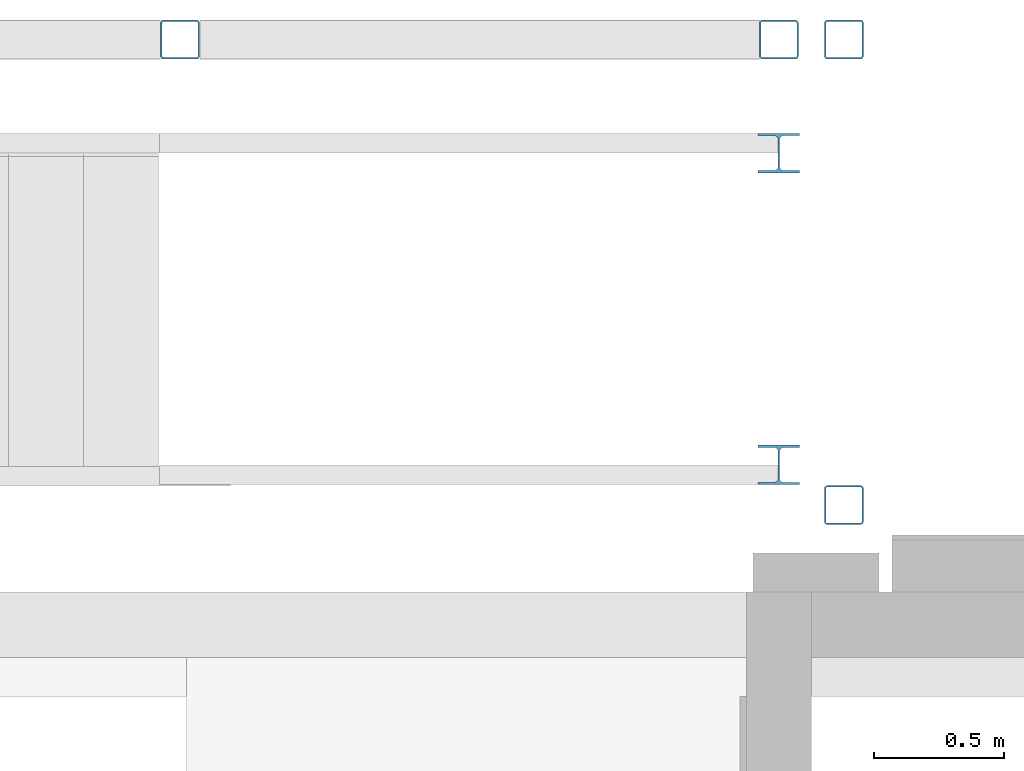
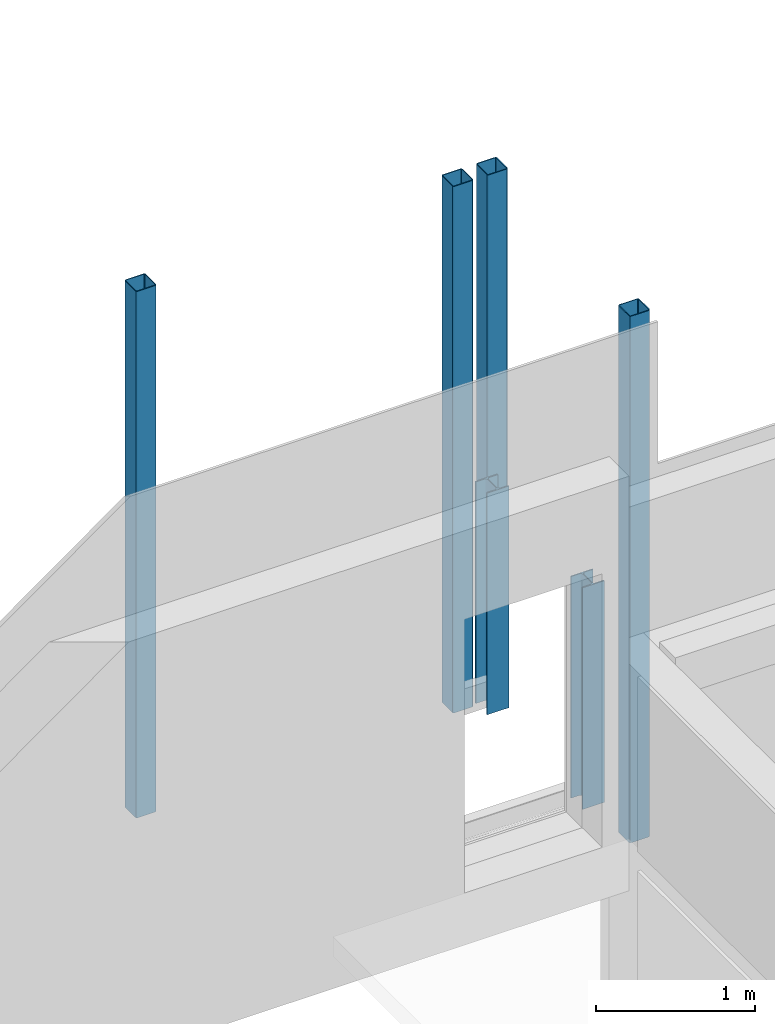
# One storey, part 4 of 29: 6 columns.
"""IFC2X3 building model written with IfcOpenShell, lengths in centimetres."""

from ifc_helpers import new_model, entity, si_unit, converted_unit, derived_unit, direction, frame, frame_2d, origin, place, context, subcontext, project, spatial, polyline, circle_curve, parameter, trimmed, segment, composite_curve, outline, extrude, source, transform, mapped, material, type_object, type_shapes, element, save


model = new_model("IFC2X3")

# Units and contexts
model_context = context("Model", 3, precision=0.001, world=origin(), true_north=direction((6.12303176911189e-17, 1.0)))
body_context = subcontext(model_context, "Body", "Model", "MODEL_VIEW")
ifc_project = project(units=[si_unit("LENGTHUNIT", "METRE", prefix="CENTI"), si_unit("AREAUNIT", "SQUARE_METRE"), si_unit("VOLUMEUNIT", "CUBIC_METRE"), converted_unit("PLANEANGLEUNIT", "DEGREE", entity("IfcRatioMeasure", 0.0174532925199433), si_unit("PLANEANGLEUNIT", "RADIAN"), dimensions=[0, 0, 0, 0, 0, 0, 0]), si_unit("MASSUNIT", "GRAM", prefix="KILO"), derived_unit("MASSDENSITYUNIT", [(si_unit("MASSUNIT", "GRAM", prefix="KILO"), 1), (si_unit("LENGTHUNIT", "METRE"), -3)]), derived_unit("MOMENTOFINERTIAUNIT", [(si_unit("LENGTHUNIT", "METRE"), 4)]), si_unit("TIMEUNIT", "SECOND"), si_unit("FREQUENCYUNIT", "HERTZ"), si_unit("THERMODYNAMICTEMPERATUREUNIT", "DEGREE_CELSIUS"), derived_unit("THERMALTRANSMITTANCEUNIT", [(si_unit("MASSUNIT", "GRAM", prefix="KILO"), 1), (si_unit("THERMODYNAMICTEMPERATUREUNIT", "KELVIN"), -1), (si_unit("TIMEUNIT", "SECOND"), -3)]), derived_unit("VOLUMETRICFLOWRATEUNIT", [(si_unit("LENGTHUNIT", "METRE"), 3), (si_unit("TIMEUNIT", "SECOND"), -1)]), si_unit("ELECTRICCURRENTUNIT", "AMPERE"), si_unit("ELECTRICVOLTAGEUNIT", "VOLT"), si_unit("POWERUNIT", "WATT"), si_unit("FORCEUNIT", "NEWTON", prefix="KILO"), si_unit("ILLUMINANCEUNIT", "LUX"), si_unit("LUMINOUSFLUXUNIT", "LUMEN"), si_unit("LUMINOUSINTENSITYUNIT", "CANDELA"), derived_unit("USERDEFINED", [(si_unit("MASSUNIT", "GRAM", prefix="KILO"), -1), (si_unit("LENGTHUNIT", "METRE"), -2), (si_unit("TIMEUNIT", "SECOND"), 3), (si_unit("LUMINOUSFLUXUNIT", "LUMEN"), 1)]), derived_unit("LINEARVELOCITYUNIT", [(si_unit("LENGTHUNIT", "METRE"), 1), (si_unit("TIMEUNIT", "SECOND"), -1)]), si_unit("PRESSUREUNIT", "PASCAL"), derived_unit("USERDEFINED", [(si_unit("LENGTHUNIT", "METRE"), -2), (si_unit("MASSUNIT", "GRAM", prefix="KILO"), 1), (si_unit("TIMEUNIT", "SECOND"), -2)]), derived_unit("LINEARFORCEUNIT", [(si_unit("MASSUNIT", "GRAM", prefix="KILO"), 1), (si_unit("LENGTHUNIT", "METRE"), 1), (si_unit("TIMEUNIT", "SECOND"), -2), (si_unit("LENGTHUNIT", "METRE"), -1)]), derived_unit("PLANARFORCEUNIT", [(si_unit("MASSUNIT", "GRAM", prefix="KILO"), 1), (si_unit("LENGTHUNIT", "METRE"), 1), (si_unit("TIMEUNIT", "SECOND"), -2), (si_unit("LENGTHUNIT", "METRE"), -2)])], contexts=[model_context])

# Site, building, storey
site_placement = place(None, origin())
site = spatial("IfcSite", under=ifc_project, at=site_placement, Name="Default", CompositionType="ELEMENT")
building_placement = place(site_placement, origin())
building = spatial("IfcBuilding", under=site, at=building_placement, CompositionType="ELEMENT")
storey_placement = place(building_placement, frame((0.0, 0.0, 545.0)))
storey = spatial("IfcBuildingStorey", under=building, at=storey_placement, Name="Poziom 1K +5,45", CompositionType="ELEMENT", Elevation=544.999999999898)

# Columns
ifc_material_1 = material(Name="Metal — stal — Stal")
column_type_1 = type_object("IfcColumnType", Name="STAL RK - Ksztaltowniki zamkniete kwadratowe_Słup:RK150x6", PredefinedType="COLUMN", material=ifc_material_1)
shared_shape_1 = source(origin(), body_context, "Body", "SweptSolid", [
    extrude(outline(composite_curve([segment(polyline([(-6.29999999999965, -7.50000000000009), (6.29999999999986, -7.50000000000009)]), True, "CONTINUOUS"), segment(trimmed(circle_curve(frame_2d((6.29999999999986, -6.29999999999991), x_axis=(1.0, 0.0)), 1.20000000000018), [parameter(270.0)], [parameter(360.0)], True, "PARAMETER"), True, "CONTINUOUS"), segment(polyline([(7.50000000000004, -6.29999999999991), (7.50000000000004, 6.29999999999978)]), True, "CONTINUOUS"), segment(trimmed(circle_curve(frame_2d((6.29999999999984, 6.29999999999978), x_axis=(1.0, 0.0)), 1.2000000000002), [parameter(360.0)], [parameter(89.9999999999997)], True, "PARAMETER"), True, "CONTINUOUS"), segment(polyline([(6.29999999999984, 7.49999999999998), (-6.30000000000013, 7.49999999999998)]), True, "CONTINUOUS"), segment(trimmed(circle_curve(frame_2d((-6.30000000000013, 6.30000000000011), x_axis=(1.0, 0.0)), 1.19999999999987), [parameter(89.9999999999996)], [parameter(180.0)], True, "PARAMETER"), True, "CONTINUOUS"), segment(polyline([(-7.5, 6.30000000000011), (-7.5, -6.29999999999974)]), True, "CONTINUOUS"), segment(trimmed(circle_curve(frame_2d((-6.29999999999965, -6.29999999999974), x_axis=(1.0, 0.0)), 1.20000000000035), [parameter(180.0)], [parameter(269.999999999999)], True, "PARAMETER"), True, "CONTINUOUS")], self_intersect=False), holes=[composite_curve([segment(trimmed(circle_curve(frame_2d((-6.30000000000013, 6.29999999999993), x_axis=(1.0, 0.0)), 0.599999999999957), [parameter(90.0000000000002)], [parameter(180.0)], True, "PARAMETER"), False, "CONTINUOUS"), segment(polyline([(-6.30000000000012, 6.89999999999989), (6.29999999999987, 6.89999999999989)]), True, "CONTINUOUS"), segment(trimmed(circle_curve(frame_2d((6.29999999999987, 6.29999999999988), x_axis=(1.0, 0.0)), 0.600000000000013), [parameter(359.999999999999)], [parameter(89.9999999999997)], True, "PARAMETER"), False, "CONTINUOUS"), segment(polyline([(6.89999999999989, 6.29999999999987), (6.89999999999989, -6.30000000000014)]), True, "CONTINUOUS"), segment(trimmed(circle_curve(frame_2d((6.2999999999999, -6.30000000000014), x_axis=(1.0, 0.0)), 0.599999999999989), [parameter(269.999999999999)], [parameter(360.0)], True, "PARAMETER"), False, "CONTINUOUS"), segment(polyline([(6.29999999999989, -6.90000000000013), (-6.3000000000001, -6.90000000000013)]), True, "CONTINUOUS"), segment(trimmed(circle_curve(frame_2d((-6.3000000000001, -6.30000000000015), x_axis=(1.0, 0.0)), 0.599999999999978), [parameter(180.0)], [parameter(270.0)], True, "PARAMETER"), False, "CONTINUOUS"), segment(polyline([(-6.90000000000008, -6.30000000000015), (-6.90000000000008, 6.29999999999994)]), True, "CONTINUOUS")], self_intersect=False)]), frame((0.0, 0.0, 756.0)), (0.0, 0.0, 1.0), 404.000000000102),
])
type_shapes(column_type_1, [shared_shape_1])
for number, where in (
    (1, (-571.764892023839, 2317.41468189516, -545.0)),
    (2, (-316.764944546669, 2317.41468189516, -545.0)),
    (3, (-341.764944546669, 2317.41468189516, -545.0)),
):
    element("IfcColumn", number, at=place(storey_placement, frame(where)), inside=storey, type_object=column_type_1, material=ifc_material_1, Name="STAL RK - Ksztaltowniki zamkniete kwadratowe_Słup:RK150x6", ObjectType="STAL RK - Ksztaltowniki zamkniete kwadratowe_Słup:RK150x6", context=body_context, shape_type="MappedRepresentation", body=[
        mapped(shared_shape_1, transform((0.0, 0.0, 0.0), scale=1.0)),
    ])
ifc_material_2 = material(Name="Stal konstrukcyjna - S235")
column_type_2 = type_object("IfcColumnType", Name="STAL RK - Ksztaltowniki zamkniete kwadratowe_Słup:RK150x6", PredefinedType="COLUMN", material=ifc_material_2)
shared_shape_2 = source(origin(), body_context, "Body", "SweptSolid", [
    extrude(outline(composite_curve([segment(polyline([(-6.29999999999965, -7.50000000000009), (6.29999999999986, -7.50000000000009)]), True, "CONTINUOUS"), segment(trimmed(circle_curve(frame_2d((6.29999999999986, -6.29999999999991), x_axis=(1.0, 0.0)), 1.20000000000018), [parameter(270.0)], [parameter(360.0)], True, "PARAMETER"), True, "CONTINUOUS"), segment(polyline([(7.50000000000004, -6.29999999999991), (7.50000000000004, 6.29999999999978)]), True, "CONTINUOUS"), segment(trimmed(circle_curve(frame_2d((6.29999999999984, 6.29999999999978), x_axis=(1.0, 0.0)), 1.2000000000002), [parameter(360.0)], [parameter(89.9999999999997)], True, "PARAMETER"), True, "CONTINUOUS"), segment(polyline([(6.29999999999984, 7.49999999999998), (-6.30000000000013, 7.49999999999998)]), True, "CONTINUOUS"), segment(trimmed(circle_curve(frame_2d((-6.30000000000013, 6.30000000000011), x_axis=(1.0, 0.0)), 1.19999999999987), [parameter(89.9999999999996)], [parameter(180.0)], True, "PARAMETER"), True, "CONTINUOUS"), segment(polyline([(-7.5, 6.30000000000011), (-7.5, -6.29999999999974)]), True, "CONTINUOUS"), segment(trimmed(circle_curve(frame_2d((-6.29999999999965, -6.29999999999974), x_axis=(1.0, 0.0)), 1.20000000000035), [parameter(180.0)], [parameter(269.999999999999)], True, "PARAMETER"), True, "CONTINUOUS")], self_intersect=False), holes=[composite_curve([segment(trimmed(circle_curve(frame_2d((-6.30000000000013, 6.29999999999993), x_axis=(1.0, 0.0)), 0.599999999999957), [parameter(90.0000000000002)], [parameter(180.0)], True, "PARAMETER"), False, "CONTINUOUS"), segment(polyline([(-6.30000000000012, 6.89999999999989), (6.29999999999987, 6.89999999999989)]), True, "CONTINUOUS"), segment(trimmed(circle_curve(frame_2d((6.29999999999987, 6.29999999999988), x_axis=(1.0, 0.0)), 0.600000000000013), [parameter(359.999999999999)], [parameter(89.9999999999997)], True, "PARAMETER"), False, "CONTINUOUS"), segment(polyline([(6.89999999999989, 6.29999999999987), (6.89999999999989, -6.30000000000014)]), True, "CONTINUOUS"), segment(trimmed(circle_curve(frame_2d((6.2999999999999, -6.30000000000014), x_axis=(1.0, 0.0)), 0.599999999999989), [parameter(269.999999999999)], [parameter(360.0)], True, "PARAMETER"), False, "CONTINUOUS"), segment(polyline([(6.29999999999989, -6.90000000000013), (-6.3000000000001, -6.90000000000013)]), True, "CONTINUOUS"), segment(trimmed(circle_curve(frame_2d((-6.3000000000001, -6.30000000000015), x_axis=(1.0, 0.0)), 0.599999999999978), [parameter(180.0)], [parameter(270.0)], True, "PARAMETER"), False, "CONTINUOUS"), segment(polyline([(-6.90000000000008, -6.30000000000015), (-6.90000000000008, 6.29999999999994)]), True, "CONTINUOUS")], self_intersect=False)]), frame((0.0, 0.0, 756.0)), (0.0, 0.0, 1.0), 404.000000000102),
])
type_shapes(column_type_2, [shared_shape_2])
column_placement = place(storey_placement, frame((-316.764944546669, 2138.62745206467, -545.0)))
element("IfcColumn", 4, at=column_placement, inside=storey, type_object=column_type_2, material=ifc_material_2, Name="STAL RK - Ksztaltowniki zamkniete kwadratowe_Słup:RK150x6", ObjectType="STAL RK - Ksztaltowniki zamkniete kwadratowe_Słup:RK150x6", context=body_context, shape_type="MappedRepresentation", body=[
    mapped(shared_shape_2, transform((0.0, 0.0, 0.0), scale=1.0)),
])
column_type_3 = type_object("IfcColumnType", Name="Słup HE-A:HEA160", PredefinedType="COLUMN", material=ifc_material_1)
shared_shape_3 = source(origin(), body_context, "Body", "SweptSolid", [
    extrude(outline(composite_curve([segment(polyline([(6.7, -8.0), (7.6, -8.0)]), True, "CONTINUOUS"), segment(polyline([(7.6, -8.0), (7.6, 8.0)]), True, "CONTINUOUS"), segment(polyline([(7.6, 8.0), (6.7, 8.0)]), True, "CONTINUOUS"), segment(polyline([(6.7, 8.0), (6.7, 1.8)]), True, "CONTINUOUS"), segment(trimmed(circle_curve(frame_2d((5.2, 1.8), x_axis=(1.0, 0.0)), 1.5), [parameter(270.0)], [parameter(0.0)], True, "PARAMETER"), False, "CONTINUOUS"), segment(polyline([(5.2, 0.3), (-5.2, 0.3)]), True, "CONTINUOUS"), segment(trimmed(circle_curve(frame_2d((-5.2, 1.8), x_axis=(0.0, -1.0)), 1.5), [parameter(270.0)], [parameter(0.0)], True, "PARAMETER"), False, "CONTINUOUS"), segment(polyline([(-6.7, 1.8), (-6.7, 8.0)]), True, "CONTINUOUS"), segment(polyline([(-6.7, 8.0), (-7.6, 8.0)]), True, "CONTINUOUS"), segment(polyline([(-7.6, 8.0), (-7.6, -8.0)]), True, "CONTINUOUS"), segment(polyline([(-7.6, -8.0), (-6.7, -8.0)]), True, "CONTINUOUS"), segment(polyline([(-6.7, -8.0), (-6.7, -1.8)]), True, "CONTINUOUS"), segment(trimmed(circle_curve(frame_2d((-5.2, -1.8), x_axis=(-1.0, 0.0)), 1.5), [parameter(270.0)], [parameter(0.0)], True, "PARAMETER"), False, "CONTINUOUS"), segment(polyline([(-5.2, -0.299999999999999), (5.2, -0.299999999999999)]), True, "CONTINUOUS"), segment(trimmed(circle_curve(frame_2d((5.2, -1.8), x_axis=(0.0, 1.0)), 1.5), [parameter(270.0)], [parameter(0.0)], True, "PARAMETER"), False, "CONTINUOUS"), segment(polyline([(6.7, -1.8), (6.7, -8.0)]), True, "CONTINUOUS")], self_intersect=False)), frame((0.0, 0.0, 781.499999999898), z_axis=(0.0, 0.0, 1.0), x_axis=(0.0, -1.0, 0.0)), (0.0, 0.0, 1.0), 170.100000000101),
])
type_shapes(column_type_3, [shared_shape_3])
for number, where in (
    (5, (-341.764944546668, 2273.8124511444, -545.0)),
    (6, (-341.764944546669, 2154.0124511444, -545.0)),
):
    element("IfcColumn", number, at=place(storey_placement, frame(where)), inside=storey, type_object=column_type_3, Name="Słup HE-A:HEA160", ObjectType="Słup HE-A:HEA160", context=body_context, shape_type="MappedRepresentation", body=[
        mapped(shared_shape_3, transform((0.0, 0.0, 0.0), scale=1.0)),
    ])

save(model, "model.ifc")
